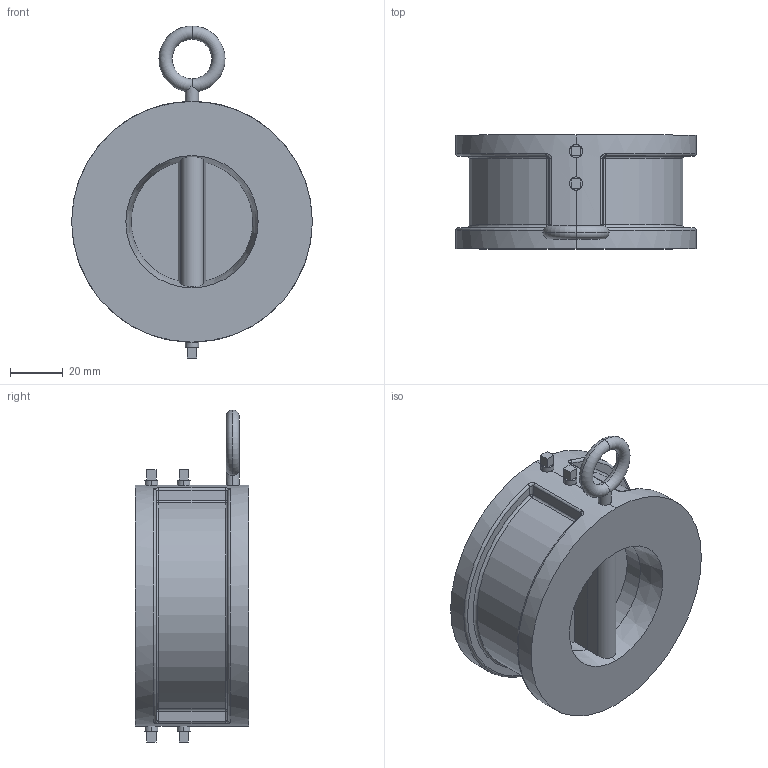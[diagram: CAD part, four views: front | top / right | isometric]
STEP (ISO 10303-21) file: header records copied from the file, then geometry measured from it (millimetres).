
FILE_DESCRIPTION (( 'STEP AP203' ), '1' );
FILE_NAME ('D6_DN040.STEP', '2012-09-21T09:19:24', ( 'luca.saino' ), ( 'Hewlett-Packard Company' ), 'SwSTEP 2.0', 'SolidWorks 2012', '' );
FILE_SCHEMA (( 'CONFIG_CONTROL_DESIGN' ));
Length unit declared in the file: millimetre
Products named in the file (1): D6_DN040
Bounding box: 91 x 43 x 125.5 mm (x, y, z)
Volume: 153419.2 mm3; surface area: 41291.4 mm2
Topology: 1 solids, 1 shells, 168 faces, 417 edges, 243 vertices
Faces by surface type: plane 83, cylinder 55, torus 12, sphere 8, bspline 8, cone 2
Entity records: 6008 total; most frequent: CARTESIAN_POINT 2061, ORIENTED_EDGE 818, DIRECTION 797, EDGE_CURVE 409, AXIS2_PLACEMENT_3D 295, VERTEX_POINT 243, VECTOR 207, LINE 207
